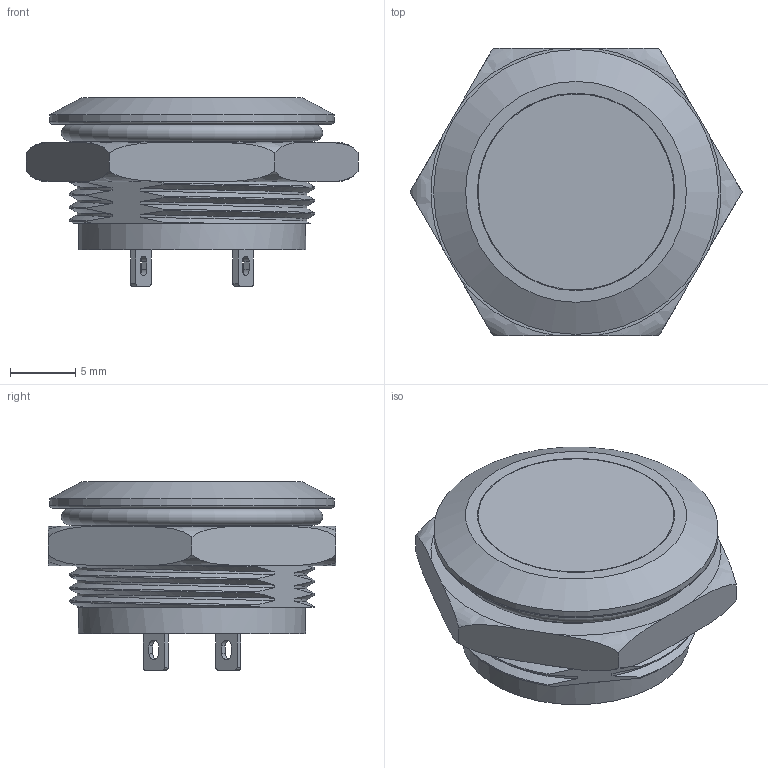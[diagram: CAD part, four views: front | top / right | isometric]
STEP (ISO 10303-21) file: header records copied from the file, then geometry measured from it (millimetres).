
FILE_DESCRIPTION(/* description */ (''),/* implementation_level */ '2;1');
FILE_NAME(/* name */ '55.stp',/* time_stamp */ '2020-09-23T15:48:12+08:00',/* author */ (''),/* organization */ (''),/* preprocessor_version */ 'ST-DEVELOPER v11',/* originating_system */ 'SIEMENS UGS NX 6.0',/* authorisation */ '');
FILE_SCHEMA (('CONFIG_CONTROL_DESIGN'));
Length unit declared in the file: millimetre
Products named in the file (1): 55
Bounding box: 25.4 x 22 x 14.4 mm (x, y, z)
Volume: 2547.5 mm3; surface area: 4956.5 mm2
Topology: 8 solids, 9 shells, 270 faces, 691 edges, 454 vertices
Faces by surface type: plane 159, cylinder 60, bspline 22, torus 17, extrusion 8, cone 4
Full cylindrical faces by diameter (mm): 2.2 x2, 2.6 x1, 12.3 x1, 12.4 x1, 15 x2, 15.1 x1, 15.9 x1, 16.5 x1, 16.6 x1, 16.8 x1, 17.4 x1, 21.8 x1
Entity records: 12647 total; most frequent: CARTESIAN_POINT 6442, ORIENTED_EDGE 1316, DIRECTION 1088, EDGE_CURVE 658, VERTEX_POINT 444, VECTOR 390, LINE 382, AXIS2_PLACEMENT_3D 349
